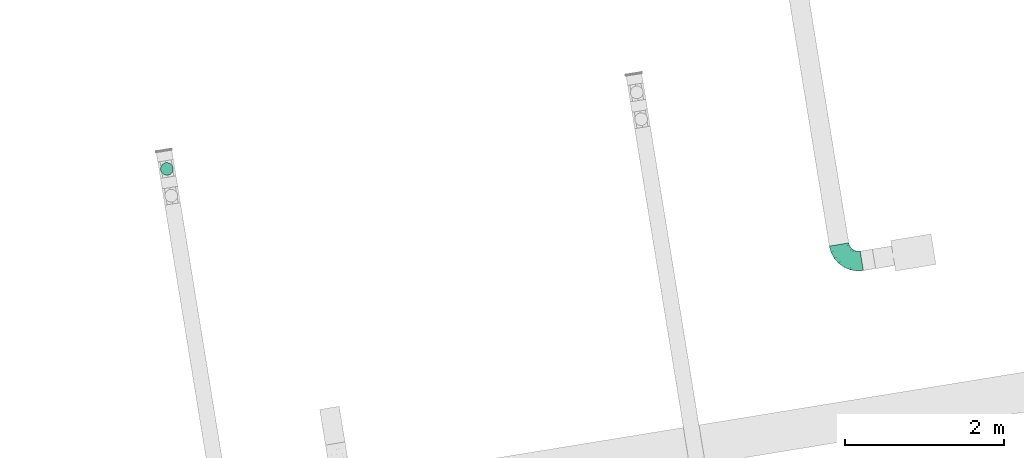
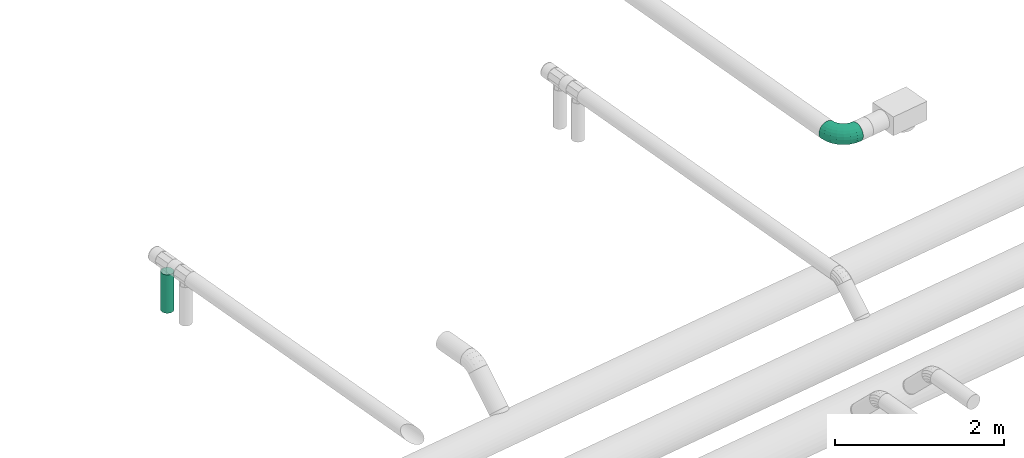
# One storey, part 12 of 19: 1 flow fitting, 1 flow segment.
"""IFC2X3 building model written with IfcOpenShell, lengths in millimetres."""

from ifc_helpers import new_model, entity, si_unit, converted_unit, derived_unit, direction, frame, origin, origin_with_axes, place, context, subcontext, project, spatial, faceted_brep, source, transform, mapped, material, type_object, element, save


model = new_model("IFC2X3")

# Units and contexts
model_context = context("Model", 3, precision=0.01, world=origin(), true_north=direction((6.12323399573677e-17, 1.0)))
plan_context = context("Plan", 3, precision=1e-05, world=origin_with_axes())
body_context = subcontext(model_context, "Body", "Model", "MODEL_VIEW")
ifc_project = project(units=[converted_unit("PLANEANGLEUNIT", "DEGREE", entity("IfcPositiveLengthMeasure", 0.0174532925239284), si_unit("PLANEANGLEUNIT", "RADIAN"), dimensions=[0, 0, 0, 0, 0, 0, 0]), si_unit("AREAUNIT", "SQUARE_METRE"), si_unit("LENGTHUNIT", "METRE", prefix="MILLI"), si_unit("MASSUNIT", "GRAM", prefix="KILO"), si_unit("POWERUNIT", "WATT"), si_unit("PRESSUREUNIT", "PASCAL", prefix="KILO"), si_unit("FORCEUNIT", "NEWTON", prefix="KILO"), si_unit("ELECTRICVOLTAGEUNIT", "VOLT"), si_unit("ELECTRICCURRENTUNIT", "AMPERE"), si_unit("THERMODYNAMICTEMPERATUREUNIT", "DEGREE_CELSIUS"), si_unit("TIMEUNIT", "SECOND"), si_unit("VOLUMEUNIT", "CUBIC_METRE"), derived_unit("LINEARVELOCITYUNIT", [(si_unit("LENGTHUNIT", "METRE"), 1), (si_unit("TIMEUNIT", "SECOND"), -1)]), derived_unit("VOLUMETRICFLOWRATEUNIT", [(si_unit("VOLUMEUNIT", "CUBIC_METRE"), 1), (si_unit("TIMEUNIT", "SECOND"), -1)]), derived_unit("THERMALTRANSMITTANCEUNIT", [(si_unit("POWERUNIT", "WATT"), 1), (si_unit("THERMODYNAMICTEMPERATUREUNIT", "KELVIN"), -1), (si_unit("AREAUNIT", "SQUARE_METRE"), -1)]), derived_unit("SOUNDPRESSUREUNIT", [(si_unit("PRESSUREUNIT", "PASCAL"), 1)])], contexts=[model_context, plan_context])

# Site, building, storey
site_placement = place(None, frame((5.09380697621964e-08, 5.80416781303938e-08, 0.0), z_axis=(0.0, 0.0, 1.0), x_axis=(-0.160806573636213, 0.986985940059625, 0.0)))
site = spatial("IfcSite", under=ifc_project, at=site_placement, Name="Default", CompositionType="ELEMENT")
building_placement = place(site_placement, frame((0.0, 0.0, 0.0), z_axis=(0.0, 0.0, 1.0), x_axis=(1.0, -2.77555756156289e-17, 0.0)))
building = spatial("IfcBuilding", under=site, at=building_placement, Name="Bygning (endres i Project Information)", CompositionType="ELEMENT")
storey_placement = place(building_placement, frame((0.0, 0.0, 51360.0000000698), z_axis=(0.0, 0.0, 1.0), x_axis=(1.0, -2.77555756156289e-17, 0.0)))
storey = spatial("IfcBuildingStorey", under=building, at=storey_placement, Name="H01-Nivå D+0,36", CompositionType="ELEMENT", Elevation=51360.0000000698)

# Flow fitting
ifc_material = material(Name="3601.001 Tilluft")
duct_fitting_type = type_object("IfcDuctFittingType", Name="magicirc_elbow_full_radius_NOR:magicirc_elbow_full_radius_NOR", PredefinedType="NOTDEFINED", material=ifc_material)
shared_shape = source(origin(), body_context, "Body", "Brep", [
    faceted_brep([(-166.554650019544, -115.597967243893, 0.0), (-167.916018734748, -109.633421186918, 38.6271243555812), (-250.000000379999, -118.882064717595, 38.6271243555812), (-250.000000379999, -125.00000019, 0.0), (-171.866864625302, -92.3236343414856, 73.473156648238), (-250.000000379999, -101.127124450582, 73.473156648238), (-178.020451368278, -65.3630092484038, 101.127124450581), (-250.000000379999, -73.4731566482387, 101.127124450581), (-185.774423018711, -31.3906397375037, 118.882064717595), (-250.000000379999, -38.6271243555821, 118.882064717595), (-194.369766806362, 6.26802196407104, 125.00000019), (-250.000000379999, 0.0, 125.00000019), (-202.965110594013, 43.9266836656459, 118.882064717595), (-250.000000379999, 38.6271243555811, 118.882064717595), (-210.719082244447, 77.8990531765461, 101.127124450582), (-250.000000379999, 73.4731566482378, 101.127124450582), (-216.872668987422, 104.859678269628, 73.4731566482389), (-250.000000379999, 101.127124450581, 73.4731566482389), (-220.823514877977, 122.169465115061, 38.6271243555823), (-250.000000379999, 118.882064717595, 38.6271243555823), (-222.184883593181, 128.134011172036, 0.0), (-250.000000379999, 125.00000019, 0.0), (-220.823514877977, 122.169465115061, -38.6271243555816), (-250.000000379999, 118.882064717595, -38.6271243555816), (-216.872668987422, 104.859678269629, -73.4731566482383), (-250.000000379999, 101.127124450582, -73.4731566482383), (-210.719082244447, 77.8990531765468, -101.127124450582), (-250.000000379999, 73.4731566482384, -101.127124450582), (-202.965110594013, 43.9266836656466, -118.882064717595), (-250.000000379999, 38.6271243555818, -118.882064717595), (-194.369766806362, 6.26802196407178, -125.00000019), (-250.000000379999, 0.0, -125.00000019), (-185.774423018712, -31.3906397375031, -118.882064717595), (-250.000000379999, -38.6271243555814, -118.882064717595), (-178.020451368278, -65.3630092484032, -101.127124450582), (-250.000000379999, -73.4731566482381, -101.127124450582), (-171.866864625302, -92.3236343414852, -73.4731566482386), (-250.000000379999, -101.127124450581, -73.4731566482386), (-167.916018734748, -109.633421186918, -38.627124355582), (-250.000000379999, -118.882064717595, -38.627124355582), (-87.2935979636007, -87.8633255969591, 0.0), (-89.9480706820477, -82.3512562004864, 38.6271243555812), (-97.6516505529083, -66.3546077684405, 73.473156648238), (-109.650257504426, -41.4392437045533, 101.127124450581), (-124.769384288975, -10.0440534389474, 118.882064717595), (-141.529065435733, 24.7577830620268, 125.00000019), (-158.288746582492, 59.5596195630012, 118.882064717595), (-173.407873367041, 90.9548098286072, 101.127124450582), (-185.406480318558, 115.870173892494, 73.4731566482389), (-193.110060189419, 131.866822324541, 38.6271243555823), (-195.764532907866, 137.378891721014, 0.0), (-193.110060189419, 131.866822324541, -38.6271243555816), (-185.406480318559, 115.870173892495, -73.4731566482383), (-173.407873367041, 90.9548098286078, -101.127124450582), (-158.288746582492, 59.5596195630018, -118.882064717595), (-141.529065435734, 24.7577830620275, -125.00000019), (-124.769384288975, -10.0440534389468, -118.882064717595), (-109.650257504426, -41.4392437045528, -101.127124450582), (-97.6516505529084, -66.3546077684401, -73.4731566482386), (-89.9480706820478, -82.3512562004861, -38.627124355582), (-16.1913243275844, -43.1868059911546, 0.0), (-20.0057947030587, -38.4036114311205, 38.6271243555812), (-31.0758188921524, -24.5222401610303, 73.473156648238), (-48.3177857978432, -2.90149751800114, 101.127124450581), (-70.0439315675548, 24.3422275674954, 118.882064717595), (-94.127549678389, 54.5421294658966, 125.00000019), (-118.211167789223, 84.7420313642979, 118.882064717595), (-139.937313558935, 111.985756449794, 101.127124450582), (-157.179280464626, 133.606499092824, 73.4731566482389), (-168.24930465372, 147.487870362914, 38.6271243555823), (-172.063775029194, 152.271064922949, 0.0), (-168.24930465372, 147.487870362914, -38.6271243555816), (-157.179280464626, 133.606499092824, -73.4731566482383), (-139.937313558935, 111.985756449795, -101.127124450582), (-118.211167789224, 84.7420313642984, -118.882064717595), (-94.1275496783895, 54.5421294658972, -125.00000019), (-70.0439315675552, 24.3422275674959, -118.882064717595), (-48.3177857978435, -2.90149751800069, -101.127124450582), (-31.0758188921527, -24.5222401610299, -73.4731566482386), (-20.0057947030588, -38.4036114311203, -38.627124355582), (43.1868059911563, 16.1913243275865, 0.0), (38.4036114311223, 20.0057947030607, 38.6271243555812), (24.522240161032, 31.0758188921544, 73.473156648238), (2.90149751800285, 48.3177857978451, 101.127124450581), (-24.3422275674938, 70.0439315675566, 118.882064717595), (-54.542129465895, 94.1275496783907, 125.00000019), (-84.7420313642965, 118.211167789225, 118.882064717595), (-111.985756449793, 139.937313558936, 101.127124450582), (-133.606499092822, 157.179280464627, 73.4731566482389), (-147.487870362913, 168.249304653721, 38.6271243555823), (-152.271064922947, 172.063775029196, 0.0), (-147.487870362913, 168.249304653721, -38.6271243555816), (-133.606499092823, 157.179280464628, -73.4731566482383), (-111.985756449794, 139.937313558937, -101.127124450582), (-84.742031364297, 118.211167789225, -118.882064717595), (-54.5421294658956, 94.1275496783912, -125.00000019), (-24.3422275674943, 70.043931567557, -118.882064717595), (2.9014975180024, 48.3177857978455, -101.127124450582), (24.5222401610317, 31.0758188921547, -73.4731566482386), (38.4036114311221, 20.0057947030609, -38.627124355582), (87.8633255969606, 87.2935979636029, 0.0), (82.3512562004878, 89.9480706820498, 38.6271243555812), (66.3546077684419, 97.6516505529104, 73.473156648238), (41.4392437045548, 109.650257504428, 101.127124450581), (10.0440534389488, 124.769384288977, 118.882064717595), (-24.7577830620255, 141.529065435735, 125.00000019), (-59.5596195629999, 158.288746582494, 118.882064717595), (-90.954809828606, 173.407873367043, 101.127124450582), (-115.870173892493, 185.40648031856, 73.4731566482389), (-131.86682232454, 193.110060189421, 38.6271243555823), (-137.378891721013, 195.764532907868, 0.0), (-131.86682232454, 193.110060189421, -38.6271243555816), (-115.870173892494, 185.40648031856, -73.4731566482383), (-90.9548098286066, 173.407873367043, -101.127124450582), (-59.5596195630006, 158.288746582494, -118.882064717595), (-24.7577830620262, 141.529065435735, -125.00000019), (10.0440534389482, 124.769384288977, -118.882064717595), (41.4392437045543, 109.650257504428, -101.127124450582), (66.3546077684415, 97.6516505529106, -73.4731566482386), (82.3512562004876, 89.9480706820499, -38.627124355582), (115.597967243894, 166.554650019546, 0.0), (109.633421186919, 167.91601873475, 38.6271243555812), (92.3236343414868, 171.866864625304, 73.473156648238), (65.3630092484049, 178.02045136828, 101.127124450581), (31.3906397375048, 185.774423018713, 118.882064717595), (-6.26802196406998, 194.369766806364, 125.00000019), (-43.9266836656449, 202.965110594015, 118.882064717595), (-77.8990531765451, 210.719082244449, 101.127124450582), (-104.859678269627, 216.872668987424, 73.4731566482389), (-122.16946511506, 220.823514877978, 38.6271243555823), (-128.134011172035, 222.184883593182, 0.0), (-122.16946511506, 220.823514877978, -38.6271243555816), (-104.859678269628, 216.872668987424, -73.4731566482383), (-77.8990531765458, 210.719082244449, -101.127124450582), (-43.9266836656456, 202.965110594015, -118.882064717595), (-6.26802196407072, 194.369766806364, -125.00000019), (31.3906397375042, 185.774423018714, -118.882064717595), (65.3630092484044, 178.02045136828, -101.127124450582), (92.3236343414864, 171.866864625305, -73.4731566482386), (109.633421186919, 167.91601873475, -38.627124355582), (125.000000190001, 250.000000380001, 0.0), (118.882064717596, 250.000000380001, 38.6271243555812), (101.127124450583, 250.000000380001, 73.473156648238), (73.4731566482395, 250.000000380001, 101.127124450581), (38.6271243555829, 250.000000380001, 118.882064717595), (0.0, 250.000000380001, 125.00000019), (-38.6271243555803, 250.000000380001, 118.882064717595), (-73.473156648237, 250.000000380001, 101.127124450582), (-101.12712445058, 250.000000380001, 73.4731566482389), (-118.882064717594, 250.000000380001, 38.6271243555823), (-125.000000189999, 250.000000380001, 0.0), (-118.882064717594, 250.000000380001, -38.6271243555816), (-101.127124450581, 250.000000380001, -73.4731566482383), (-73.4731566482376, 250.000000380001, -101.127124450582), (-38.627124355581, 250.000000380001, -118.882064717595), (0.0, 250.000000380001, -125.00000019), (38.6271243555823, 250.000000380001, -118.882064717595), (73.473156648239, 250.000000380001, -101.127124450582), (101.127124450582, 250.000000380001, -73.4731566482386), (118.882064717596, 250.000000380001, -38.627124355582)], [[[0, 1, 2, 3]], [[1, 4, 5, 2]], [[4, 6, 7, 5]], [[6, 8, 9, 7]], [[8, 10, 11, 9]], [[10, 12, 13, 11]], [[12, 14, 15, 13]], [[14, 16, 17, 15]], [[16, 18, 19, 17]], [[18, 20, 21, 19]], [[20, 22, 23, 21]], [[22, 24, 25, 23]], [[24, 26, 27, 25]], [[26, 28, 29, 27]], [[28, 30, 31, 29]], [[30, 32, 33, 31]], [[32, 34, 35, 33]], [[34, 36, 37, 35]], [[36, 38, 39, 37]], [[38, 0, 3, 39]], [[40, 41, 1, 0]], [[41, 42, 4, 1]], [[42, 43, 6, 4]], [[43, 44, 8, 6]], [[44, 45, 10, 8]], [[45, 46, 12, 10]], [[46, 47, 14, 12]], [[47, 48, 16, 14]], [[48, 49, 18, 16]], [[49, 50, 20, 18]], [[50, 51, 22, 20]], [[51, 52, 24, 22]], [[52, 53, 26, 24]], [[53, 54, 28, 26]], [[54, 55, 30, 28]], [[55, 56, 32, 30]], [[56, 57, 34, 32]], [[57, 58, 36, 34]], [[58, 59, 38, 36]], [[59, 40, 0, 38]], [[60, 61, 41, 40]], [[61, 62, 42, 41]], [[62, 63, 43, 42]], [[63, 64, 44, 43]], [[64, 65, 45, 44]], [[65, 66, 46, 45]], [[66, 67, 47, 46]], [[67, 68, 48, 47]], [[68, 69, 49, 48]], [[69, 70, 50, 49]], [[70, 71, 51, 50]], [[71, 72, 52, 51]], [[72, 73, 53, 52]], [[73, 74, 54, 53]], [[74, 75, 55, 54]], [[75, 76, 56, 55]], [[76, 77, 57, 56]], [[77, 78, 58, 57]], [[78, 79, 59, 58]], [[79, 60, 40, 59]], [[80, 81, 61, 60]], [[81, 82, 62, 61]], [[82, 83, 63, 62]], [[83, 84, 64, 63]], [[84, 85, 65, 64]], [[85, 86, 66, 65]], [[86, 87, 67, 66]], [[87, 88, 68, 67]], [[88, 89, 69, 68]], [[89, 90, 70, 69]], [[90, 91, 71, 70]], [[91, 92, 72, 71]], [[92, 93, 73, 72]], [[93, 94, 74, 73]], [[94, 95, 75, 74]], [[95, 96, 76, 75]], [[96, 97, 77, 76]], [[97, 98, 78, 77]], [[98, 99, 79, 78]], [[99, 80, 60, 79]], [[100, 101, 81, 80]], [[101, 102, 82, 81]], [[102, 103, 83, 82]], [[103, 104, 84, 83]], [[104, 105, 85, 84]], [[105, 106, 86, 85]], [[106, 107, 87, 86]], [[107, 108, 88, 87]], [[108, 109, 89, 88]], [[109, 110, 90, 89]], [[110, 111, 91, 90]], [[111, 112, 92, 91]], [[112, 113, 93, 92]], [[113, 114, 94, 93]], [[114, 115, 95, 94]], [[115, 116, 96, 95]], [[116, 117, 97, 96]], [[117, 118, 98, 97]], [[118, 119, 99, 98]], [[119, 100, 80, 99]], [[120, 121, 101, 100]], [[121, 122, 102, 101]], [[122, 123, 103, 102]], [[123, 124, 104, 103]], [[124, 125, 105, 104]], [[125, 126, 106, 105]], [[126, 127, 107, 106]], [[127, 128, 108, 107]], [[128, 129, 109, 108]], [[129, 130, 110, 109]], [[130, 131, 111, 110]], [[131, 132, 112, 111]], [[132, 133, 113, 112]], [[133, 134, 114, 113]], [[134, 135, 115, 114]], [[135, 136, 116, 115]], [[136, 137, 117, 116]], [[137, 138, 118, 117]], [[138, 139, 119, 118]], [[139, 120, 100, 119]], [[140, 141, 121, 120]], [[141, 142, 122, 121]], [[142, 143, 123, 122]], [[143, 144, 124, 123]], [[144, 145, 125, 124]], [[145, 146, 126, 125]], [[146, 147, 127, 126]], [[147, 148, 128, 127]], [[148, 149, 129, 128]], [[149, 150, 130, 129]], [[150, 151, 131, 130]], [[151, 152, 132, 131]], [[152, 153, 133, 132]], [[153, 154, 134, 133]], [[154, 155, 135, 134]], [[155, 156, 136, 135]], [[156, 157, 137, 136]], [[157, 158, 138, 137]], [[158, 159, 139, 138]], [[159, 140, 120, 139]], [[3, 2, 5, 7, 9, 11, 13, 15, 17, 19, 21, 23, 25, 27, 29, 31, 33, 35, 37, 39]], [[159, 158, 157, 156, 155, 154, 153, 152, 151, 150, 149, 148, 147, 146, 145, 144, 143, 142, 141, 140]]]),
])
flow_fitting_placement = place(storey_placement, frame((997795.043332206, -393341.168778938, 3350.0), z_axis=(0.0, 0.0, 1.0), x_axis=(-1.0, 2.77555756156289e-17, 0.0)))
element("IfcFlowFitting", 1, at=flow_fitting_placement, inside=storey, type_object=duct_fitting_type, material=ifc_material, Name="magicirc_elbow_full_radius_NOR:magicirc_elbow_full_radius_NOR", ObjectType="magicirc_elbow_full_radius_NOR:magicirc_elbow_full_radius_NOR", context=body_context, shape_type="MappedRepresentation", body=[
    mapped(shared_shape, transform((0.0, 0.0, 0.0), scale=1.0)),
])

# Flow segment
duct_segment_type = type_object("IfcDuctSegmentType", Name="Round Duct:Sirkulær kanal", PredefinedType="NOTDEFINED", material=ifc_material)
flow_segment_placement = place(storey_placement, frame((0.0, 0.0, 0.0), z_axis=(0.0, 0.0, 1.0), x_axis=(1.0, -2.77555756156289e-17, 0.0)))
element("IfcFlowSegment", 2, at=flow_segment_placement, inside=storey, type_object=duct_segment_type, Name="Round Duct:Sirkulær kanal", ObjectType="Round Duct:Sirkulær kanal", context=body_context, shape_type="Brep", body=[
    faceted_brep([(1000347.1737039, -385212.731779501, 3139.99999993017), (1000333.28184966, -385211.51639974, 3139.99999993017), (1000333.28184966, -385211.51639974, 3695.00000015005), (1000347.1737039, -385212.731779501, 3695.00000015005), (1000361.06555813, -385211.51639974, 3139.99999993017), (1000361.06555813, -385211.51639974, 3695.00000015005), (1000374.53531541, -385207.907189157, 3139.99999993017), (1000374.53531541, -385207.907189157, 3695.00000015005), (1000387.17370396, -385202.013811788, 3139.99999993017), (1000387.17370396, -385202.013811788, 3695.00000015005), (1000398.59671275, -385194.015334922, 3139.99999993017), (1000398.59671275, -385194.015334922, 3695.00000015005), (1000408.45725944, -385184.154788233, 3139.99999993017), (1000408.45725944, -385184.154788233, 3695.00000015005), (1000416.45573631, -385172.73177944, 3139.99999993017), (1000416.45573631, -385172.73177944, 3695.00000015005), (1000422.34911368, -385160.093390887, 3139.99999993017), (1000422.34911368, -385160.093390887, 3695.00000015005), (1000425.95832426, -385146.623633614, 3139.99999993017), (1000425.95832426, -385146.623633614, 3695.00000015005), (1000427.17370402, -385132.73177938, 3139.99999993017), (1000427.17370402, -385132.73177938, 3695.00000015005), (1000425.95832426, -385118.839925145, 3139.99999993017), (1000425.95832426, -385118.839925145, 3695.00000015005), (1000422.34911368, -385105.370167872, 3139.99999993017), (1000422.34911368, -385105.370167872, 3695.00000015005), (1000416.45573631, -385092.731779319, 3139.99999993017), (1000416.45573631, -385092.731779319, 3695.00000015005), (1000408.45725944, -385081.308770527, 3139.99999993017), (1000408.45725944, -385081.308770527, 3695.00000015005), (1000398.59671275, -385071.448223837, 3139.99999993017), (1000398.59671275, -385071.448223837, 3695.00000015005), (1000387.17370396, -385063.449746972, 3139.99999993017), (1000387.17370396, -385063.449746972, 3695.00000015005), (1000374.53531541, -385057.556369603, 3139.99999993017), (1000374.53531541, -385057.556369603, 3695.00000015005), (1000361.06555813, -385053.947159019, 3139.99999993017), (1000361.06555813, -385053.947159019, 3695.00000015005), (1000347.1737039, -385052.731779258, 3139.99999993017), (1000347.1737039, -385052.731779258, 3695.00000015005), (1000333.28184966, -385053.947159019, 3139.99999993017), (1000333.28184966, -385053.947159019, 3695.00000015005), (1000319.81209239, -385057.556369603, 3139.99999993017), (1000319.81209239, -385057.556369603, 3695.00000015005), (1000307.17370384, -385063.449746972, 3139.99999993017), (1000307.17370384, -385063.449746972, 3695.00000015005), (1000295.75069505, -385071.448223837, 3139.99999993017), (1000295.75069505, -385071.448223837, 3695.00000015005), (1000285.89014836, -385081.308770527, 3139.99999993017), (1000285.89014836, -385081.308770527, 3695.00000015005), (1000277.89167149, -385092.731779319, 3139.99999993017), (1000277.89167149, -385092.731779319, 3695.00000015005), (1000271.99829412, -385105.370167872, 3139.99999993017), (1000271.99829412, -385105.370167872, 3695.00000015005), (1000268.38908354, -385118.839925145, 3139.99999993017), (1000268.38908354, -385118.839925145, 3695.00000015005), (1000267.17370378, -385132.73177938, 3139.99999993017), (1000267.17370378, -385132.73177938, 3695.00000015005), (1000268.38908354, -385146.623633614, 3139.99999993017), (1000268.38908354, -385146.623633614, 3695.00000015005), (1000271.99829412, -385160.093390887, 3139.99999993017), (1000271.99829412, -385160.093390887, 3695.00000015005), (1000277.89167149, -385172.73177944, 3139.99999993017), (1000277.89167149, -385172.73177944, 3695.00000015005), (1000285.89014836, -385184.154788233, 3139.99999993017), (1000285.89014836, -385184.154788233, 3695.00000015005), (1000295.75069505, -385194.015334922, 3139.99999993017), (1000295.75069505, -385194.015334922, 3695.00000015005), (1000307.17370384, -385202.013811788, 3139.99999993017), (1000307.17370384, -385202.013811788, 3695.00000015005), (1000319.81209239, -385207.907189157, 3139.99999993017), (1000319.81209239, -385207.907189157, 3695.00000015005)], [[[0, 1, 2, 3]], [[4, 0, 3, 5]], [[6, 4, 5, 7]], [[8, 6, 7, 9]], [[10, 8, 9, 11]], [[12, 10, 11, 13]], [[14, 12, 13, 15]], [[16, 14, 15, 17]], [[18, 16, 17, 19]], [[20, 18, 19, 21]], [[22, 20, 21, 23]], [[24, 22, 23, 25]], [[26, 24, 25, 27]], [[28, 26, 27, 29]], [[30, 28, 29, 31]], [[32, 30, 31, 33]], [[34, 32, 33, 35]], [[36, 34, 35, 37]], [[38, 36, 37, 39]], [[40, 38, 39, 41]], [[42, 40, 41, 43]], [[44, 42, 43, 45]], [[46, 44, 45, 47]], [[48, 46, 47, 49]], [[50, 48, 49, 51]], [[52, 50, 51, 53]], [[54, 52, 53, 55]], [[56, 54, 55, 57]], [[58, 56, 57, 59]], [[60, 58, 59, 61]], [[62, 60, 61, 63]], [[64, 62, 63, 65]], [[66, 64, 65, 67]], [[68, 66, 67, 69]], [[70, 68, 69, 71]], [[1, 70, 71, 2]], [[3, 2, 71, 69, 67, 65, 63, 61, 59, 57, 55, 53, 51, 49, 47, 45, 43, 41, 39, 37, 35, 33, 31, 29, 27, 25, 23, 21, 19, 17, 15, 13, 11, 9, 7, 5]], [[4, 6, 8, 10, 12, 14, 16, 18, 20, 22, 24, 26, 28, 30, 32, 34, 36, 38, 40, 42, 44, 46, 48, 50, 52, 54, 56, 58, 60, 62, 64, 66, 68, 70, 1, 0]]], orient=[[False], [False], [False], [False], [False], [False], [False], [False], [False], [False], [False], [False], [False], [False], [False], [False], [False], [False], [False], [False], [False], [False], [False], [False], [False], [False], [False], [False], [False], [False], [False], [False], [False], [False], [False], [False], [False], [False]]),
])

save(model, "model.ifc")
